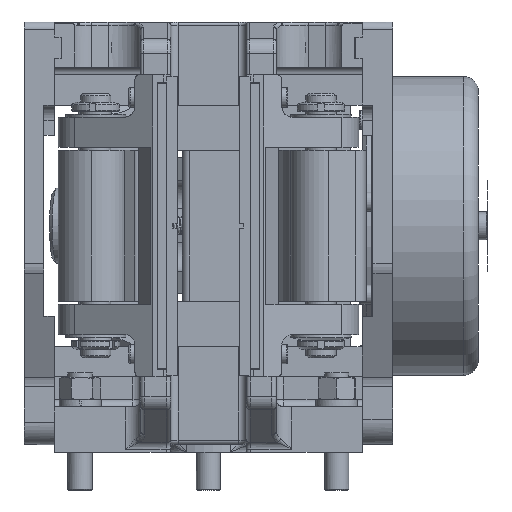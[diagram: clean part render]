
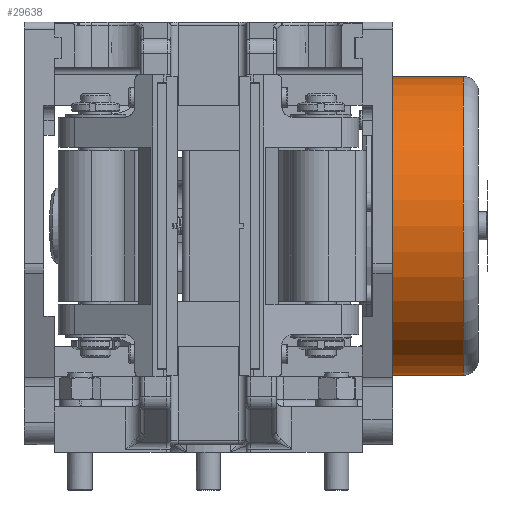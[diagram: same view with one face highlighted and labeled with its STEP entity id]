
A CAD part, front view. The second image highlights one B-rep face of the part: STEP entity #29638.
In plain terms, the highlighted cylindrical face has radius 99 mm (diameter 198 mm), a full revolution.
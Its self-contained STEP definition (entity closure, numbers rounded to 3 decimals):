
#2095=FACE_OUTER_BOUND('',#3746,.T.);
#3746=EDGE_LOOP('',(#18902,#18903,#18904,#18905,#18906,#18907,#18908,#18909,
#18910));
#5620=LINE('',#43564,#7750);
#7750=VECTOR('',#34769,99.);
#9877=CIRCLE('',#31336,99.);
#9878=CIRCLE('',#31337,99.);
#9879=CIRCLE('',#31338,99.);
#9880=CIRCLE('',#31340,99.);
#9881=CIRCLE('',#31341,99.);
#9882=CIRCLE('',#31342,99.);
#9883=CIRCLE('',#31343,99.);
#11532=VERTEX_POINT('',#43555);
#11533=VERTEX_POINT('',#43557);
#11534=VERTEX_POINT('',#43559);
#11535=VERTEX_POINT('',#43563);
#11536=VERTEX_POINT('',#43565);
#11537=VERTEX_POINT('',#43567);
#11538=VERTEX_POINT('',#43569);
#14433=EDGE_CURVE('',#11532,#11533,#9877,.T.);
#14434=EDGE_CURVE('',#11533,#11534,#9878,.T.);
#14435=EDGE_CURVE('',#11534,#11532,#9879,.T.);
#14436=EDGE_CURVE('',#11533,#11535,#5620,.T.);
#14437=EDGE_CURVE('',#11535,#11536,#9880,.T.);
#14438=EDGE_CURVE('',#11536,#11537,#9881,.T.);
#14439=EDGE_CURVE('',#11537,#11538,#9882,.T.);
#14440=EDGE_CURVE('',#11538,#11535,#9883,.T.);
#18902=ORIENTED_EDGE('',*,*,#14435,.F.);
#18903=ORIENTED_EDGE('',*,*,#14434,.F.);
#18904=ORIENTED_EDGE('',*,*,#14436,.T.);
#18905=ORIENTED_EDGE('',*,*,#14437,.T.);
#18906=ORIENTED_EDGE('',*,*,#14438,.T.);
#18907=ORIENTED_EDGE('',*,*,#14439,.T.);
#18908=ORIENTED_EDGE('',*,*,#14440,.T.);
#18909=ORIENTED_EDGE('',*,*,#14436,.F.);
#18910=ORIENTED_EDGE('',*,*,#14433,.F.);
#27609=CYLINDRICAL_SURFACE('',#31339,99.);
#29638=ADVANCED_FACE('',(#2095),#27609,.T.);
#31336=AXIS2_PLACEMENT_3D('',#43558,#34761,#34762);
#31337=AXIS2_PLACEMENT_3D('',#43560,#34763,#34764);
#31338=AXIS2_PLACEMENT_3D('',#43561,#34765,#34766);
#31339=AXIS2_PLACEMENT_3D('',#43562,#34767,#34768);
#31340=AXIS2_PLACEMENT_3D('',#43566,#34770,#34771);
#31341=AXIS2_PLACEMENT_3D('',#43568,#34772,#34773);
#31342=AXIS2_PLACEMENT_3D('',#43570,#34774,#34775);
#31343=AXIS2_PLACEMENT_3D('',#43571,#34776,#34777);
#34761=DIRECTION('center_axis',(1.,0.,0.));
#34762=DIRECTION('ref_axis',(0.,0.985,0.174));
#34763=DIRECTION('center_axis',(1.,0.,0.));
#34764=DIRECTION('ref_axis',(0.,0.985,0.174));
#34765=DIRECTION('center_axis',(1.,0.,0.));
#34766=DIRECTION('ref_axis',(0.,0.985,0.174));
#34767=DIRECTION('center_axis',(1.,0.,0.));
#34768=DIRECTION('ref_axis',(0.,0.985,0.174));
#34769=DIRECTION('',(-1.,0.,0.));
#34770=DIRECTION('center_axis',(1.,0.,0.));
#34771=DIRECTION('ref_axis',(0.,0.985,0.174));
#34772=DIRECTION('center_axis',(1.,0.,0.));
#34773=DIRECTION('ref_axis',(0.,0.985,0.174));
#34774=DIRECTION('center_axis',(1.,0.,0.));
#34775=DIRECTION('ref_axis',(0.,0.985,0.174));
#34776=DIRECTION('center_axis',(1.,0.,0.));
#34777=DIRECTION('ref_axis',(0.,0.985,0.174));
#43555=CARTESIAN_POINT('',(168.844,292.809,247.496));
#43557=CARTESIAN_POINT('',(168.844,212.504,132.809));
#43558=CARTESIAN_POINT('Origin',(168.844,310.,150.));
#43559=CARTESIAN_POINT('',(168.844,407.496,167.191));
#43560=CARTESIAN_POINT('Origin',(168.844,310.,150.));
#43561=CARTESIAN_POINT('Origin',(168.844,310.,150.));
#43562=CARTESIAN_POINT('Origin',(142.972,310.,150.));
#43563=CARTESIAN_POINT('',(117.1,212.504,132.809));
#43564=CARTESIAN_POINT('',(142.972,212.504,132.809));
#43565=CARTESIAN_POINT('',(117.1,310.,51.));
#43566=CARTESIAN_POINT('Origin',(117.1,310.,150.));
#43567=CARTESIAN_POINT('',(117.1,407.496,167.191));
#43568=CARTESIAN_POINT('Origin',(117.1,310.,150.));
#43569=CARTESIAN_POINT('',(117.1,310.,249.));
#43570=CARTESIAN_POINT('Origin',(117.1,310.,150.));
#43571=CARTESIAN_POINT('Origin',(117.1,310.,150.));
